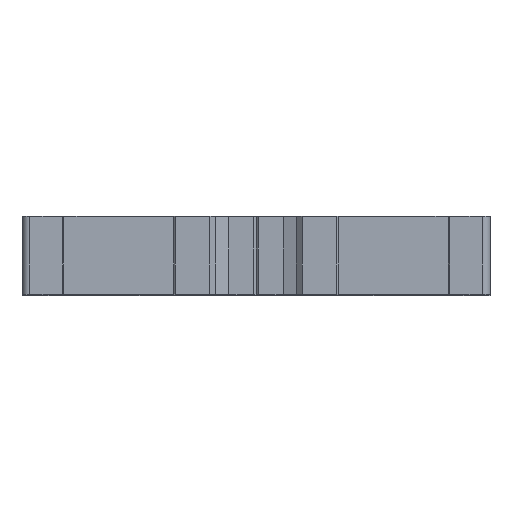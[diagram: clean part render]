
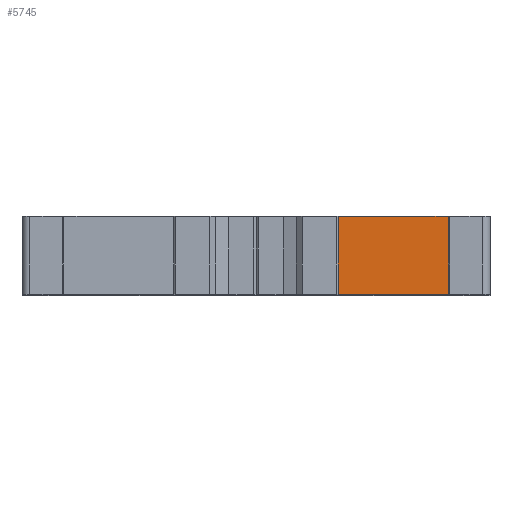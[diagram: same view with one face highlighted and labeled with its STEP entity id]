
A CAD part, top view. The second image highlights one B-rep face of the part: STEP entity #5745.
In plain terms, the highlighted planar face has unit normal (0, 0, 1).
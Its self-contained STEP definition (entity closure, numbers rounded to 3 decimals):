
#542=DIRECTION('',(-1.,0.,0.));
#543=VECTOR('',#542,14.1);
#544=CARTESIAN_POINT('',(24.63,0.,44.8));
#545=LINE('',#544,#543);
#1270=DIRECTION('',(-1.,0.,0.));
#1271=VECTOR('',#1270,14.1);
#1272=CARTESIAN_POINT('',(24.63,10.,44.8));
#1273=LINE('',#1272,#1271);
#2133=DIRECTION('',(0.,1.,0.));
#2134=VECTOR('',#2133,10.);
#2135=CARTESIAN_POINT('',(24.63,0.,44.8));
#2136=LINE('',#2135,#2134);
#2137=DIRECTION('',(0.,1.,0.));
#2138=VECTOR('',#2137,10.);
#2139=CARTESIAN_POINT('',(10.53,0.,44.8));
#2140=LINE('',#2139,#2138);
#3070=CARTESIAN_POINT('',(24.63,0.,44.8));
#3072=VERTEX_POINT('',#3070);
#3073=CARTESIAN_POINT('',(10.53,0.,44.8));
#3074=VERTEX_POINT('',#3073);
#3166=CARTESIAN_POINT('',(24.63,10.,44.8));
#3168=VERTEX_POINT('',#3166);
#3169=CARTESIAN_POINT('',(10.53,10.,44.8));
#3170=VERTEX_POINT('',#3169);
#5733=CARTESIAN_POINT('',(24.63,0.,44.8));
#5734=DIRECTION('',(0.,0.,-1.));
#5735=DIRECTION('',(-1.,0.,0.));
#5736=AXIS2_PLACEMENT_3D('',#5733,#5734,#5735);
#5737=PLANE('',#5736);
#5738=ORIENTED_EDGE('',*,*,#3484,.T.);
#5740=ORIENTED_EDGE('',*,*,#5739,.T.);
#5741=ORIENTED_EDGE('',*,*,#3898,.F.);
#5742=ORIENTED_EDGE('',*,*,#5726,.F.);
#5743=EDGE_LOOP('',(#5738,#5740,#5741,#5742));
#5744=FACE_OUTER_BOUND('',#5743,.F.);
#5745=ADVANCED_FACE('',(#5744),#5737,.F.);
#3484=EDGE_CURVE('',#3072,#3074,#545,.T.);
#3898=EDGE_CURVE('',#3168,#3170,#1273,.T.);
#5726=EDGE_CURVE('',#3072,#3168,#2136,.T.);
#5739=EDGE_CURVE('',#3074,#3170,#2140,.T.);
